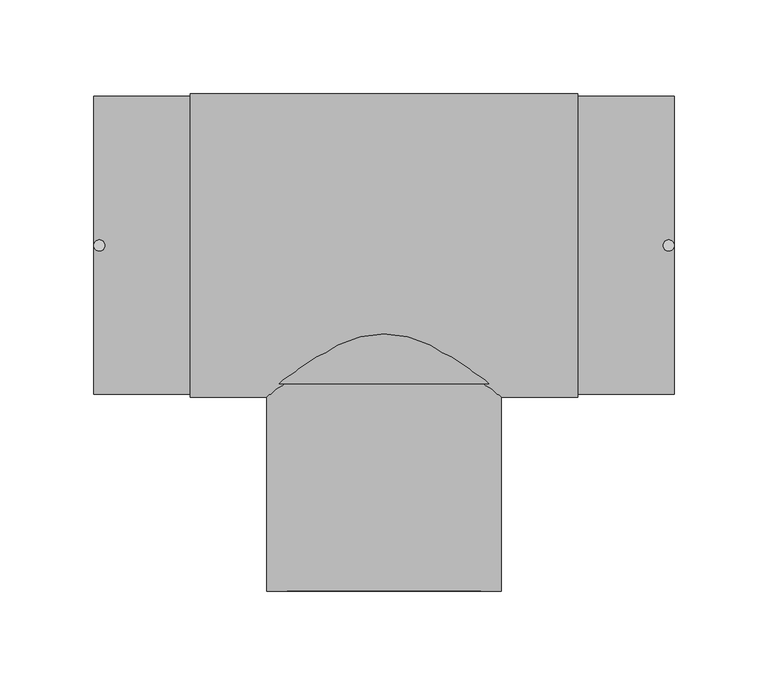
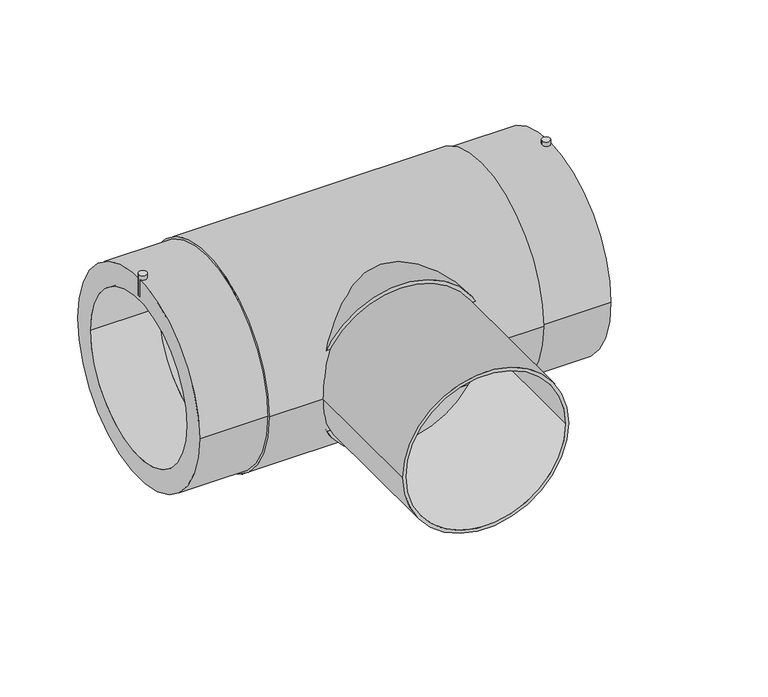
"""IFC4 building model written with IfcOpenShell, lengths in millimetres: pipe fitting geometry, EGB_VASEN_ PPR_Te electrosoldable WXRD300_Te reducida electrosoldable WXRD310 : Te electrosoldable."""

from ifc_helpers import new_model, si_unit, point, frame, frame_2d, origin, origin_2d, place, context, project, spatial, circle_curve, trimmed, segment, composite_curve, outline, extrude, source, transform, mapped, element, save


def pipe_fitting_1798f756(model_context):
    return source(origin(), model_context, "Body", "SweptSolid", [
        extrude(outline(composite_curve([segment(trimmed(circle_curve(frame_2d((-152.0, 0.0)), 3.0), [point((-155.0, 0.0))], [point((-149.0, 0.0))], False, "CARTESIAN"), True, "CONTINUOUS"), segment(trimmed(circle_curve(frame_2d((-152.0, 0.0)), 3.0), [point((-149.0, 0.0))], [point((-155.0, 0.0))], False, "CARTESIAN"), True, "CONTINUOUS")], self_intersect=False)), frame((0.0, 0.0, 65.5), z_axis=(0.0, 0.0, 1.0), x_axis=(1.0, 0.0, 0.0)), (0.0, 0.0, 1.0), 17.0),
        extrude(outline(composite_curve([segment(trimmed(circle_curve(frame_2d((152.0, 0.0)), 3.0), [point((149.0, 0.0))], [point((155.0, 0.0))], False, "CARTESIAN"), True, "CONTINUOUS"), segment(trimmed(circle_curve(frame_2d((152.0, 0.0)), 3.0), [point((155.0, 0.0))], [point((149.0, 0.0))], False, "CARTESIAN"), True, "CONTINUOUS")], self_intersect=False)), frame((0.0, 0.0, 65.5), z_axis=(0.0, 0.0, 1.0), x_axis=(1.0, 0.0, 0.0)), (0.0, 0.0, 1.0), 17.0),
        extrude(outline(composite_curve([segment(trimmed(circle_curve(origin_2d(), 65.0), [point((0.0, 65.0))], [point((0.0, -65.0))], False, "CARTESIAN"), True, "CONTINUOUS"), segment(trimmed(circle_curve(origin_2d(), 65.0), [point((0.0, -65.0))], [point((0.0, 65.0))], False, "CARTESIAN"), True, "CONTINUOUS")], self_intersect=False)), frame((0.0, -73.8, 0.0), z_axis=(0.0, 1.0, 0.0), x_axis=(0.0, 0.0, 1.0)), (0.0, 0.0, 1.0), 73.8),
        extrude(outline(composite_curve([segment(trimmed(circle_curve(origin_2d(), 62.5), [point((0.0, -62.5))], [point((0.0, 62.5))], False, "CARTESIAN"), True, "CONTINUOUS"), segment(trimmed(circle_curve(origin_2d(), 62.5), [point((0.0, 62.5))], [point((0.0, -62.5))], False, "CARTESIAN"), True, "CONTINUOUS")], self_intersect=False), holes=[composite_curve([segment(trimmed(circle_curve(origin_2d(), 60.0), [point((0.0, -60.0))], [point((0.0, 60.0))], True, "CARTESIAN"), True, "CONTINUOUS"), segment(trimmed(circle_curve(origin_2d(), 60.0), [point((0.0, 60.0))], [point((0.0, -60.0))], True, "CARTESIAN"), True, "CONTINUOUS")], self_intersect=False)]), frame((0.0, -184.5, 0.0), z_axis=(0.0, 1.0, 0.0), x_axis=(0.0, 0.0, 1.0)), (0.0, 0.0, 1.0), 110.7),
        extrude(outline(composite_curve([segment(trimmed(circle_curve(origin_2d(), 81.0), [point((-81.0, 0.0))], [point((81.0, 0.0))], False, "CARTESIAN"), True, "CONTINUOUS"), segment(trimmed(circle_curve(origin_2d(), 81.0), [point((81.0, 0.0))], [point((-81.0, 0.0))], False, "CARTESIAN"), True, "CONTINUOUS")], self_intersect=False), holes=[composite_curve([segment(trimmed(circle_curve(origin_2d(), 62.5), [point((-62.5, 0.0))], [point((62.5, 0.0))], True, "CARTESIAN"), True, "CONTINUOUS"), segment(trimmed(circle_curve(origin_2d(), 62.5), [point((62.5, 0.0))], [point((-62.5, 0.0))], True, "CARTESIAN"), True, "CONTINUOUS")], self_intersect=False)]), frame((-103.3333333, 0.0, 0.0), z_axis=(1.0, 0.0, 0.0), x_axis=(0.0, 1.0, 0.0)), (0.0, 0.0, 1.0), 206.6666667),
        extrude(outline(composite_curve([segment(trimmed(circle_curve(origin_2d(), 79.5), [point((-79.5, 0.0))], [point((79.5, 0.0))], False, "CARTESIAN"), True, "CONTINUOUS"), segment(trimmed(circle_curve(origin_2d(), 79.5), [point((79.5, 0.0))], [point((-79.5, 0.0))], False, "CARTESIAN"), True, "CONTINUOUS")], self_intersect=False), holes=[composite_curve([segment(trimmed(circle_curve(origin_2d(), 62.5), [point((-62.5, 0.0))], [point((62.5, 0.0))], True, "CARTESIAN"), True, "CONTINUOUS"), segment(trimmed(circle_curve(origin_2d(), 62.5), [point((62.5, 0.0))], [point((-62.5, 0.0))], True, "CARTESIAN"), True, "CONTINUOUS")], self_intersect=False)]), frame((-155.0, 0.0, 0.0), z_axis=(1.0, 0.0, 0.0), x_axis=(0.0, 1.0, 0.0)), (0.0, 0.0, 1.0), 310.0),
    ])


if __name__ == "__main__":
    model = new_model("IFC4")
    model_context = context("Model", 3, world=origin())
    ifc_project = project(units=[si_unit("LENGTHUNIT", "METRE", prefix="MILLI")], contexts=[model_context])
    site = spatial("IfcSite", under=ifc_project)
    building = spatial("IfcBuilding", under=site)
    placement = place(None, origin())
    pipe_fitting_shape = pipe_fitting_1798f756(model_context)
    element("IfcPipeFitting", 1, ObjectType="EGB_VASEN_ PPR_Te electrosoldable WXRD300_Te reducida electrosoldable WXRD310 : Te electrosoldable", at=placement, inside=building, context=model_context, shape_type="MappedRepresentation", body=[
        mapped(pipe_fitting_shape, transform((0.0, 0.0, 0.0), x_axis=(1.0, 0.0, 0.0), y_axis=(0.0, 1.0, 0.0), z_axis=(0.0, 0.0, 1.0))),
    ])
    save(model, "model.ifc")
